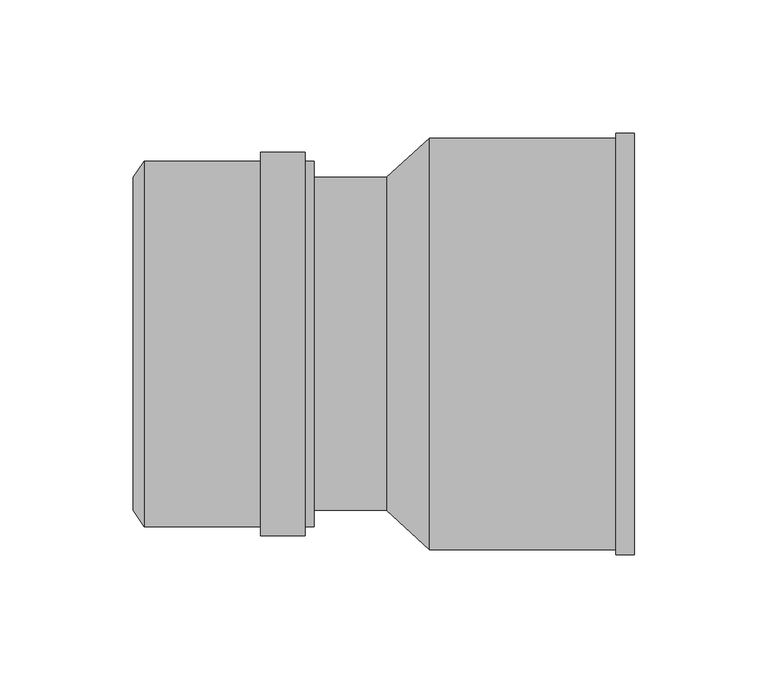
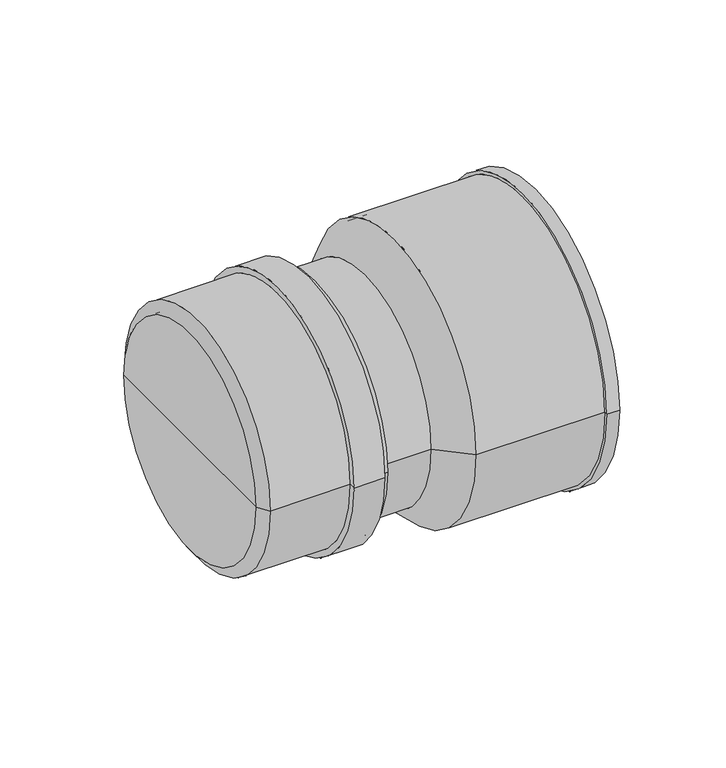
"""IFC4 building model written with IfcOpenShell, lengths in millimetres: pipe fitting geometry, pf_KGUG : pf_KGUG."""

from ifc_helpers import new_model, si_unit, point, frame, origin, origin_2d, place, context, project, spatial, polyline, circle_curve, trimmed, segment, composite_curve, outline, extrude, source, transform, mapped, element, save
from ifc_brep_helpers import plane_surface, cylinder_surface, revolved_surface, advanced_brep


def pipe_fitting_0e802f2f(model_context):
    return source(origin(), model_context, "Body", "SolidModel", [
        advanced_brep(
        [(-95.2, -62.5, 0.0), (-95.2, 62.5, 0.0), (-91.1, 68.6, 0.0), (-91.1, -68.6, 0.0), (-95.2, 0.0, 0.0), (-27.2, -68.6, 0.0), (-27.2, 68.6, 0.0), (-27.2, 62.5, 0.0), (-27.2, -62.5, 0.0), (-30.6, -68.6, 0.0), (-30.6, 68.6, 0.0), (-30.6, -72.0, 0.0), (-30.6, 72.0, 0.0), (-47.4, -72.0, 0.0), (-47.4, 72.0, 0.0), (-47.4, -68.6, 0.0), (-47.4, 68.6, 0.0), (-91.1, -62.5, 0.0), (-91.1, 62.5, 0.0), (-91.1, 0.0, 0.0)],
        [
            (0, 1, circle_curve(frame((-95.2, 0.0, 0.0), z_axis=(1.0, 0.0, 0.0), x_axis=(0.0, 1.0, 0.0)), 62.5)),
            (1, 2),
            (2, 3, circle_curve(frame((-91.1, 0.0, 0.0), z_axis=(-1.0, 0.0, 0.0), x_axis=(0.0, 1.0, 0.0)), 68.6)),
            (3, 0),
            (1, 0, circle_curve(frame((-95.2, 0.0, 0.0), z_axis=(1.0, 0.0, 0.0), x_axis=(0.0, 1.0, 0.0)), 62.5)),
            (3, 2, circle_curve(frame((-91.1, 0.0, 0.0), z_axis=(-1.0, 0.0, 0.0), x_axis=(0.0, 1.0, 0.0)), 68.6)),
            (4, 1),
            (0, 4),
            (5, 6, circle_curve(frame((-27.2, 0.0, 0.0), z_axis=(1.0, 0.0, 0.0), x_axis=(0.0, 1.0, 0.0)), 68.6)),
            (6, 7),
            (7, 8, circle_curve(frame((-27.2, 0.0, 0.0), z_axis=(-1.0, 0.0, 0.0), x_axis=(0.0, 1.0, 0.0)), 62.5)),
            (8, 5),
            (6, 5, circle_curve(frame((-27.2, 0.0, 0.0), z_axis=(1.0, 0.0, 0.0), x_axis=(0.0, 1.0, 0.0)), 68.6)),
            (8, 7, circle_curve(frame((-27.2, 0.0, 0.0), z_axis=(-1.0, 0.0, 0.0), x_axis=(0.0, 1.0, 0.0)), 62.5)),
            (9, 10, circle_curve(frame((-30.6, 0.0, 0.0), z_axis=(1.0, 0.0, 0.0), x_axis=(0.0, 1.0, 0.0)), 68.6)),
            (10, 6),
            (5, 9),
            (10, 9, circle_curve(frame((-30.6, 0.0, 0.0), z_axis=(1.0, 0.0, 0.0), x_axis=(0.0, 1.0, 0.0)), 68.6)),
            (11, 12, circle_curve(frame((-30.6, 0.0, 0.0), z_axis=(1.0, 0.0, 0.0), x_axis=(0.0, 1.0, 0.0)), 72.0)),
            (12, 10),
            (9, 11),
            (12, 11, circle_curve(frame((-30.6, 0.0, 0.0), z_axis=(1.0, 0.0, 0.0), x_axis=(0.0, 1.0, 0.0)), 72.0)),
            (13, 14, circle_curve(frame((-47.4, 0.0, 0.0), z_axis=(1.0, 0.0, 0.0), x_axis=(0.0, 1.0, 0.0)), 72.0)),
            (14, 12),
            (11, 13),
            (14, 13, circle_curve(frame((-47.4, 0.0, 0.0), z_axis=(1.0, 0.0, 0.0), x_axis=(0.0, 1.0, 0.0)), 72.0)),
            (15, 16, circle_curve(frame((-47.4, 0.0, 0.0), z_axis=(1.0, 0.0, 0.0), x_axis=(0.0, 1.0, 0.0)), 68.6)),
            (16, 14),
            (13, 15),
            (16, 15, circle_curve(frame((-47.4, 0.0, 0.0), z_axis=(1.0, 0.0, 0.0), x_axis=(0.0, 1.0, 0.0)), 68.6)),
            (2, 16),
            (15, 3),
            (17, 18, circle_curve(frame((-91.1, 0.0, 0.0), z_axis=(1.0, 0.0, 0.0), x_axis=(0.0, 1.0, 0.0)), 62.5)),
            (18, 19),
            (19, 17),
            (18, 17, circle_curve(frame((-91.1, 0.0, 0.0), z_axis=(1.0, 0.0, 0.0), x_axis=(0.0, 1.0, 0.0)), 62.5)),
            (7, 18),
            (17, 8),
        ],
        [
            revolved_surface(polyline([(-91.1, 68.6, 0.0), (-95.2, 62.5, 0.0)]), (-95.2, 0.0, 0.0), (-1.0, 0.0, 0.0)),
            plane_surface(frame((-95.2, 0.0, 0.0), z_axis=(-1.0, 0.0, 0.0), x_axis=(0.0, 1.0, 0.0))),
            plane_surface(frame((-27.2, 0.0, 0.0), z_axis=(1.0, 0.0, 0.0), x_axis=(0.0, 1.0, 0.0))),
            cylinder_surface(frame((-95.2, 0.0, 0.0), z_axis=(-1.0, 0.0, 0.0), x_axis=(0.0, 1.0, 0.0)), 68.6),
            plane_surface(frame((-30.6, 0.0, 0.0), z_axis=(1.0, 0.0, 0.0), x_axis=(0.0, 1.0, 0.0))),
            cylinder_surface(frame((-95.2, 0.0, 0.0), z_axis=(-1.0, 0.0, 0.0), x_axis=(0.0, 1.0, 0.0)), 72.0),
            plane_surface(frame((-47.4, 0.0, 0.0), z_axis=(-1.0, 0.0, 0.0), x_axis=(0.0, 1.0, 0.0))),
            plane_surface(frame((-91.1, 0.0, 0.0), z_axis=(1.0, 0.0, 0.0), x_axis=(0.0, 1.0, 0.0))),
            revolved_surface(polyline([(-91.1, 62.5, 0.0), (-27.200000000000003, 62.5, 0.0)]), (-95.2, 0.0, 0.0), (-1.0, 0.0, 0.0)),
        ],
        [
            (0, [[1, 2, 3, 4]]),
            (0, [[5, -4, 6, -2]]),
            (1, [[7, -1, 8]]),
            (1, [[-8, -5, -7]]),
            (2, [[9, 10, 11, 12]]),
            (2, [[13, -12, 14, -10]]),
            (3, [[15, 16, -9, 17]]),
            (3, [[18, -17, -13, -16]]),
            (4, [[19, 20, -15, 21]]),
            (4, [[22, -21, -18, -20]]),
            (5, [[23, 24, -19, 25]]),
            (5, [[26, -25, -22, -24]]),
            (6, [[27, 28, -23, 29]]),
            (6, [[30, -29, -26, -28]]),
            (3, [[-3, 31, -27, 32]]),
            (3, [[-6, -32, -30, -31]]),
            (7, [[33, 34, 35]]),
            (7, [[36, -35, -34]]),
            (8, [[-11, 37, -33, 38]]),
            (8, [[-14, -38, -36, -37]]),
        ],
    ),
        extrude(outline(composite_curve([segment(trimmed(circle_curve(origin_2d(), 62.5), [point((-62.5, 0.0))], [point((62.5, 0.0))], False, "CARTESIAN"), True, "CONTINUOUS"), segment(trimmed(circle_curve(origin_2d(), 62.5), [point((62.5, 0.0))], [point((-62.5, 0.0))], False, "CARTESIAN"), True, "CONTINUOUS")], self_intersect=False)), frame((-27.2, 0.0, 0.0), z_axis=(1.0, 0.0, 0.0), x_axis=(0.0, 1.0, 0.0)), (0.0, 0.0, 1.0), 27.2),
        advanced_brep(
        [(93.1, -75.5, 0.0), (93.1, 75.5, 0.0), (16.2, 75.5, 0.0), (16.2, -75.5, 0.0), (93.1, -79.1, 0.0), (93.1, 79.1, 0.0), (16.2, -77.3, 0.0), (16.2, 77.3, 0.0), (86.1184027, 77.3, 0.0), (86.1184027, -77.3, 0.0), (0.0, -62.5, 0.0), (0.0, 62.5, 0.0), (0.0, 0.0, 0.0), (86.1184027, 79.1, 0.0), (86.1184027, -79.1, 0.0), (16.2, 0.0, 0.0)],
        [
            (0, 1, circle_curve(frame((93.1, 0.0, 0.0), z_axis=(1.0, 0.0, 0.0), x_axis=(0.0, 1.0, 0.0)), 75.5)),
            (1, 2),
            (2, 3, circle_curve(frame((16.2, 0.0, 0.0), z_axis=(-1.0, 0.0, 0.0), x_axis=(0.0, 1.0, 0.0)), 75.5)),
            (3, 0),
            (4, 5, circle_curve(frame((93.1, 0.0, 0.0), z_axis=(1.0, 0.0, 0.0), x_axis=(0.0, 1.0, 0.0)), 79.1)),
            (5, 1),
            (0, 4),
            (6, 7, circle_curve(frame((16.2, 0.0, 0.0), z_axis=(1.0, 0.0, 0.0), x_axis=(0.0, 1.0, 0.0)), 77.3)),
            (7, 8),
            (8, 9, circle_curve(frame((86.1184027, 0.0, 0.0), z_axis=(-1.0, 0.0, 0.0), x_axis=(0.0, 1.0, 0.0)), 77.3)),
            (9, 6),
            (10, 11, circle_curve(frame((0.0, 0.0, 0.0), z_axis=(1.0, 0.0, 0.0), x_axis=(0.0, 1.0, 0.0)), 62.5)),
            (11, 7),
            (6, 10),
            (12, 11),
            (10, 12),
            (8, 13),
            (13, 14, circle_curve(frame((86.1184027, 0.0, 0.0), z_axis=(-1.0, 0.0, 0.0), x_axis=(0.0, 1.0, 0.0)), 79.1)),
            (14, 9),
            (1, 0, circle_curve(frame((93.1, 0.0, 0.0), z_axis=(1.0, 0.0, 0.0), x_axis=(0.0, 1.0, 0.0)), 75.5)),
            (3, 2, circle_curve(frame((16.2, 0.0, 0.0), z_axis=(-1.0, 0.0, 0.0), x_axis=(0.0, 1.0, 0.0)), 75.5)),
            (5, 4, circle_curve(frame((93.1, 0.0, 0.0), z_axis=(1.0, 0.0, 0.0), x_axis=(0.0, 1.0, 0.0)), 79.1)),
            (13, 5),
            (4, 14),
            (13, 14, circle_curve(frame((86.1184027, 0.0, 0.0), z_axis=(1.0, 0.0, 0.0), x_axis=(0.0, 1.0, 0.0)), 79.1)),
            (8, 9, circle_curve(frame((86.1184027, 0.0, 0.0), z_axis=(1.0, 0.0, 0.0), x_axis=(0.0, 1.0, 0.0)), 77.3)),
            (7, 6, circle_curve(frame((16.2, 0.0, 0.0), z_axis=(1.0, 0.0, 0.0), x_axis=(0.0, 1.0, 0.0)), 77.3)),
            (11, 10, circle_curve(frame((0.0, 0.0, 0.0), z_axis=(1.0, 0.0, 0.0), x_axis=(0.0, 1.0, 0.0)), 62.5)),
            (2, 15),
            (15, 3),
        ],
        [
            revolved_surface(polyline([(16.200000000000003, 75.5, 0.0), (93.1, 75.5, 0.0)]), (99.1, 0.0, 0.0), (-1.0, 0.0, 0.0)),
            plane_surface(frame((93.1, 0.0, 0.0), z_axis=(1.0, 0.0, 0.0), x_axis=(0.0, 1.0, 0.0))),
            cylinder_surface(frame((99.1, 0.0, 0.0), z_axis=(-1.0, 0.0, 0.0), x_axis=(0.0, 1.0, 0.0)), 77.3),
            revolved_surface(polyline([(16.2, 77.3, 0.0), (0.0, 62.5, 0.0)]), (99.1, 0.0, 0.0), (-1.0, 0.0, 0.0)),
            plane_surface(frame((0.0, 0.0, 0.0), z_axis=(-1.0, 0.0, 0.0), x_axis=(0.0, 1.0, 0.0))),
            plane_surface(frame((86.1184027, 0.0, 0.0), z_axis=(-1.0, 0.0, 0.0), x_axis=(0.0, 1.0, 0.0))),
            cylinder_surface(frame((99.1, 0.0, 0.0), z_axis=(-1.0, 0.0, 0.0), x_axis=(0.0, 1.0, 0.0)), 79.1),
            plane_surface(frame((16.2, 0.0, 0.0), z_axis=(1.0, 0.0, 0.0), x_axis=(0.0, 1.0, 0.0))),
        ],
        [
            (0, [[1, 2, 3, 4]]),
            (1, [[5, 6, -1, 7]]),
            (2, [[8, 9, 10, 11]]),
            (3, [[12, 13, -8, 14]]),
            (4, [[15, -12, 16]]),
            (5, [[-10, 17, 18, 19]]),
            (0, [[20, -4, 21, -2]]),
            (1, [[22, -7, -20, -6]]),
            (6, [[-18, 23, -5, 24]]),
            (6, [[25, -24, -22, -23]]),
            (5, [[26, -19, -25, -17]]),
            (2, [[27, -11, -26, -9]]),
            (3, [[28, -14, -27, -13]]),
            (4, [[-16, -28, -15]]),
            (7, [[-3, 29, 30]]),
            (7, [[-21, -30, -29]]),
        ],
    ),
    ])


if __name__ == "__main__":
    model = new_model("IFC4")
    model_context = context("Model", 3, world=origin())
    ifc_project = project(units=[si_unit("LENGTHUNIT", "METRE", prefix="MILLI")], contexts=[model_context])
    site = spatial("IfcSite", under=ifc_project)
    building = spatial("IfcBuilding", under=site)
    placement = place(None, origin())
    pipe_fitting_shape = pipe_fitting_0e802f2f(model_context)
    element("IfcPipeFitting", 1, ObjectType="pf_KGUG : pf_KGUG", at=placement, inside=building, context=model_context, shape_type="MappedRepresentation", body=[
        mapped(pipe_fitting_shape, transform((0.0, 0.0, 0.0), x_axis=(1.0, 0.0, 0.0), y_axis=(0.0, 1.0, 0.0), z_axis=(0.0, 0.0, 1.0))),
    ])
    save(model, "model.ifc")
